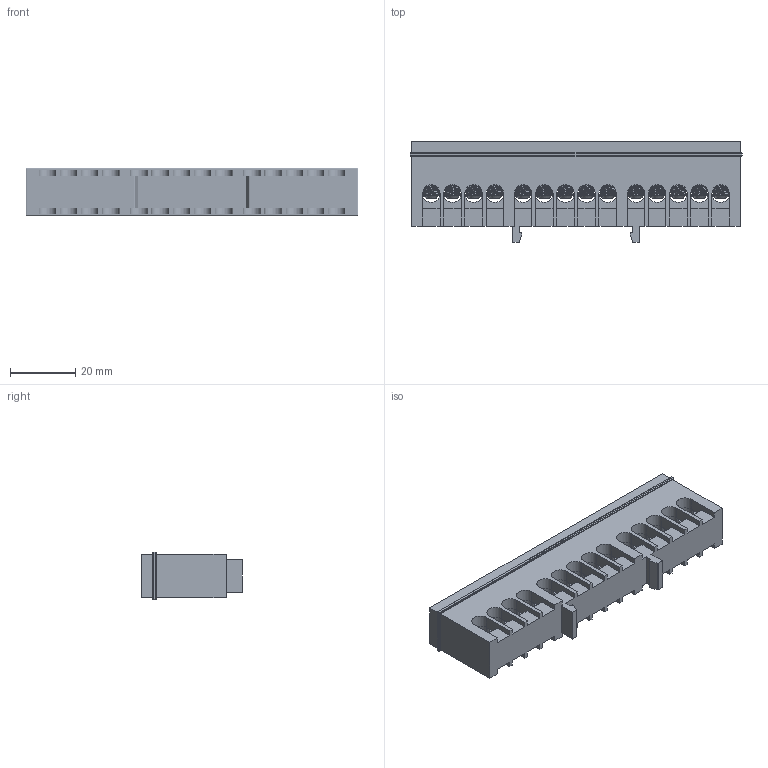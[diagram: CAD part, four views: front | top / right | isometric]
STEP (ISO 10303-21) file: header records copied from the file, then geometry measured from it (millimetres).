
FILE_DESCRIPTION (( 'STEP AP214' ), '1' );
FILE_NAME ('Øèíà íóëåâàÿ â èçîëÿöèè 6õ9 14.STEP', '2020-02-06T11:12:06', ( '' ), ( '' ), 'SwSTEP 2.0', 'SolidWorks 2018', '' );
FILE_SCHEMA (( 'AUTOMOTIVE_DESIGN' ));
Length unit declared in the file: millimetre
Products named in the file (4): Âèíò ì5; Øèíà íóëåâàÿ 6õ9 14; Èçîëÿöèÿ äëÿ øèíû íóëåâîé 6õ9 14; Øèíà íóëåâàÿ â èçîëÿöèè 6õ9 14
Assembly tree (16 placements, depth 2):
  Øèíà íóëåâàÿ â èçîëÿöèè 6õ9 14
    Èçîëÿöèÿ äëÿ øèíû íóëåâîé 6õ9 14
    Øèíà íóëåâàÿ 6õ9 14
    Âèíò ì5  x14
Bounding box: 102 x 31 x 14.5 mm (x, y, z)
Volume: 25653.8 mm3; surface area: 22789.8 mm2
Topology: 16 solids, 16 shells, 1329 faces, 3891 edges, 2506 vertices
Faces by surface type: cylinder 521, plane 520, cone 140, torus 98, bspline 42, sphere 8
Entity records: 16186 total; most frequent: CARTESIAN_POINT 5260, ORIENTED_EDGE 2302, DIRECTION 2038, EDGE_CURVE 1151, VECTOR 764, LINE 764, VERTEX_POINT 738, AXIS2_PLACEMENT_3D 637
